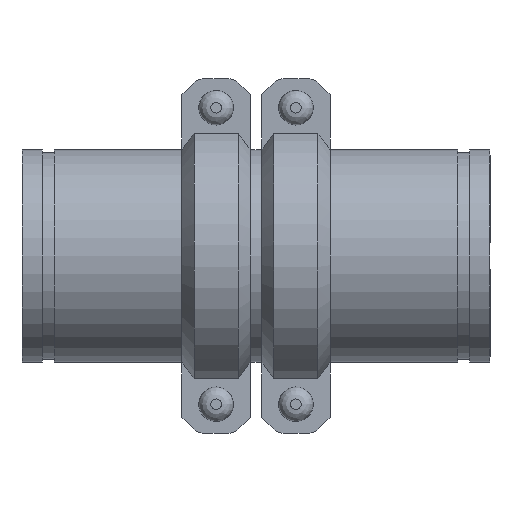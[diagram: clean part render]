
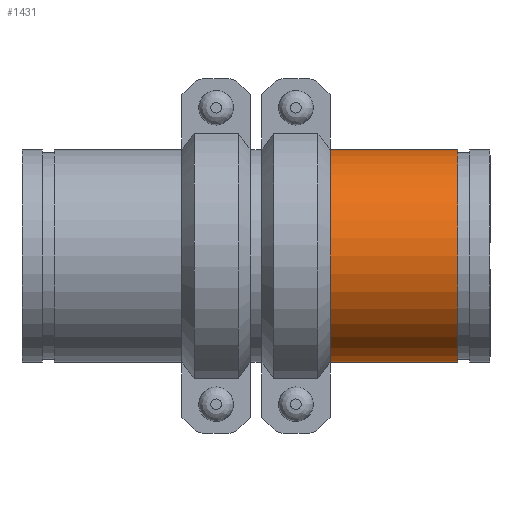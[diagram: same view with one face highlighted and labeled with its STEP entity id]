
A CAD part, front view. The second image highlights one B-rep face of the part: STEP entity #1431.
In plain terms, the highlighted cylindrical face has radius 84.138 mm (diameter 168.275 mm), a full revolution.
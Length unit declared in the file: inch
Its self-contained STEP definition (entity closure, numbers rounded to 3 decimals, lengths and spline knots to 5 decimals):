
#59=LINE('',#2295,#152);
#152=VECTOR('',#1852,3.3125);
#245=CYLINDRICAL_SURFACE('',#1638,3.3125);
#302=FACE_OUTER_BOUND('',#387,.T.);
#387=EDGE_LOOP('',(#940,#941,#942,#943,#944,#945));
#497=CIRCLE('',#1636,3.3125);
#498=CIRCLE('',#1637,3.3125);
#499=CIRCLE('',#1639,3.3125);
#500=CIRCLE('',#1640,3.3125);
#589=VERTEX_POINT('',#2286);
#590=VERTEX_POINT('',#2287);
#591=VERTEX_POINT('',#2291);
#592=VERTEX_POINT('',#2292);
#730=EDGE_CURVE('',#589,#590,#497,.T.);
#731=EDGE_CURVE('',#590,#589,#498,.T.);
#732=EDGE_CURVE('',#591,#592,#499,.T.);
#733=EDGE_CURVE('',#592,#591,#500,.T.);
#734=EDGE_CURVE('',#592,#590,#59,.T.);
#940=ORIENTED_EDGE('',*,*,#732,.F.);
#941=ORIENTED_EDGE('',*,*,#733,.F.);
#942=ORIENTED_EDGE('',*,*,#734,.T.);
#943=ORIENTED_EDGE('',*,*,#731,.T.);
#944=ORIENTED_EDGE('',*,*,#730,.T.);
#945=ORIENTED_EDGE('',*,*,#734,.F.);
#1431=ADVANCED_FACE('',(#302),#245,.T.);
#1636=AXIS2_PLACEMENT_3D('',#2288,#1842,#1843);
#1637=AXIS2_PLACEMENT_3D('',#2289,#1844,#1845);
#1638=AXIS2_PLACEMENT_3D('',#2290,#1846,#1847);
#1639=AXIS2_PLACEMENT_3D('',#2293,#1848,#1849);
#1640=AXIS2_PLACEMENT_3D('',#2294,#1850,#1851);
#1842=DIRECTION('center_axis',(-1.,0.,0.));
#1843=DIRECTION('ref_axis',(0.,0.,1.));
#1844=DIRECTION('center_axis',(-1.,0.,0.));
#1845=DIRECTION('ref_axis',(0.,0.,1.));
#1846=DIRECTION('center_axis',(-1.,0.,0.));
#1847=DIRECTION('ref_axis',(0.,1.,0.));
#1848=DIRECTION('center_axis',(-1.,0.,0.));
#1849=DIRECTION('ref_axis',(0.,0.,1.));
#1850=DIRECTION('center_axis',(-1.,0.,0.));
#1851=DIRECTION('ref_axis',(0.,0.,1.));
#1852=DIRECTION('',(1.,0.,0.));
#2286=CARTESIAN_POINT('',(2.,3.3125,0.));
#2287=CARTESIAN_POINT('',(2.,-3.3125,0.));
#2288=CARTESIAN_POINT('Origin',(2.,0.,0.));
#2289=CARTESIAN_POINT('Origin',(2.,0.,0.));
#2290=CARTESIAN_POINT('Origin',(0.,0.,
0.));
#2291=CARTESIAN_POINT('',(-2.,3.3125,0.));
#2292=CARTESIAN_POINT('',(-2.,-3.3125,0.));
#2293=CARTESIAN_POINT('Origin',(-2.,0.,0.));
#2294=CARTESIAN_POINT('Origin',(-2.,0.,0.));
#2295=CARTESIAN_POINT('',(0.,-3.3125,0.));
